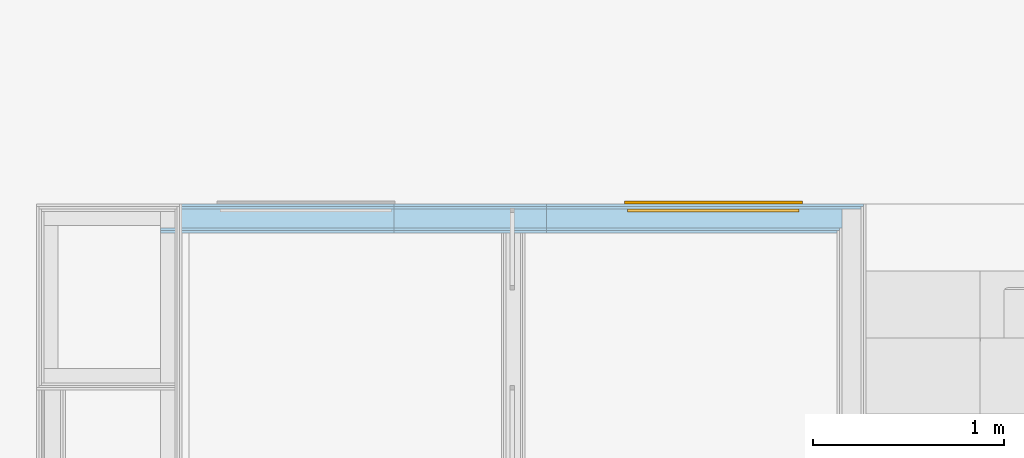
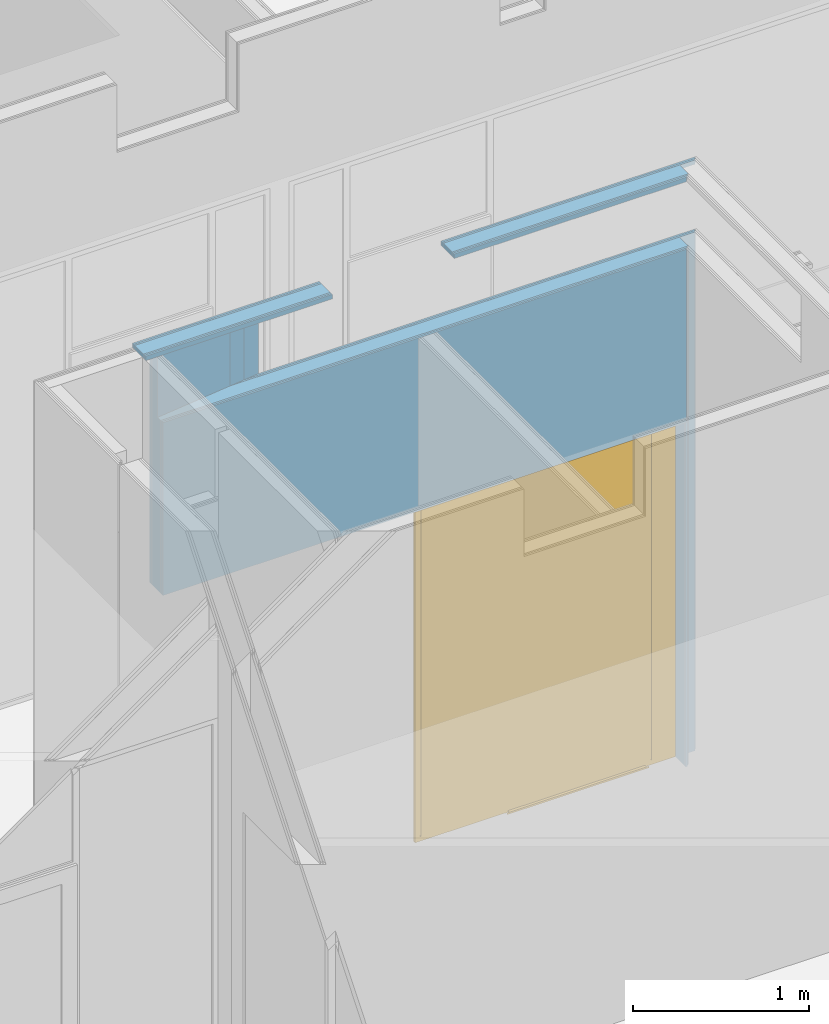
# One storey, part 46 of 109: 1 door, 2 openings, 1 element without a shape of its own, plus 5 elements that do not belong to this part.
"""IFC2X3 building model written with IfcOpenShell, lengths in millimetres."""

from ifc_helpers import new_model, entity, si_unit, converted_unit, derived_unit, money_unit, direction, frame, origin_with_axes, place, context, subcontext, project, spatial, open_shell, faceted_brep, surface_model, material, type_object, element, fill, aggregate, save


model = new_model("IFC2X3")

# Units and contexts
model_context = context("Model", 3, precision=0.01, world=origin_with_axes(), true_north=direction((0.0, 1.0)))
body_context = subcontext(model_context, "Body", "Model", "MODEL_VIEW")
ifc_project = project(units=[si_unit("LENGTHUNIT", "METRE", prefix="MILLI"), si_unit("AREAUNIT", "SQUARE_METRE"), si_unit("VOLUMEUNIT", "CUBIC_METRE"), converted_unit("PLANEANGLEUNIT", "DEGREE", entity("IfcPlaneAngleMeasure", 0.0174532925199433), si_unit("PLANEANGLEUNIT", "RADIAN"), dimensions=[0, 0, 0, 0, 0, 0, 0]), money_unit("EUR"), converted_unit("TIMEUNIT", "Year", entity("IfcTimeMeasure", 31557600.0), si_unit("TIMEUNIT", "SECOND"), dimensions=[0, 0, 1, 0, 0, 0, 0]), si_unit("MASSUNIT", "GRAM", prefix="KILO"), si_unit("THERMODYNAMICTEMPERATUREUNIT", "DEGREE_CELSIUS"), si_unit("LUMINOUSINTENSITYUNIT", "LUMEN"), si_unit("ENERGYUNIT", "JOULE", prefix="MEGA"), derived_unit("THERMALCONDUCTANCEUNIT", [(si_unit("POWERUNIT", "WATT"), 1), (si_unit("LENGTHUNIT", "METRE"), -1), (si_unit("THERMODYNAMICTEMPERATUREUNIT", "KELVIN"), -1)]), derived_unit("SPECIFICHEATCAPACITYUNIT", [(si_unit("ENERGYUNIT", "JOULE"), 1), (si_unit("MASSUNIT", "GRAM", prefix="KILO"), -1), (si_unit("THERMODYNAMICTEMPERATUREUNIT", "KELVIN"), -1)]), derived_unit("MASSDENSITYUNIT", [(si_unit("MASSUNIT", "GRAM", prefix="KILO"), 1), (si_unit("VOLUMEUNIT", "CUBIC_METRE"), -1)])], contexts=[model_context])

# Site, building, storey
site_placement = place(None, origin_with_axes())
site = spatial("IfcSite", under=ifc_project, at=site_placement, Name="<site naam>", CompositionType="ELEMENT")
building_placement = place(site_placement, origin_with_axes())
building = spatial("IfcBuilding", under=site, at=building_placement, Name="<Naam gebouw>", CompositionType="ELEMENT")
storey_placement = place(building_placement, origin_with_axes())
storey = spatial("IfcBuildingStorey", under=building, at=storey_placement, Name="00 Begane grond", CompositionType="ELEMENT", Elevation=0.0)

# Door
door_style = type_object("IfcDoorStyle", Name="D1 zl2 27", ConstructionType="NOTDEFINED", OperationType="USERDEFINED", ParameterTakesPrecedence=False, Sizeable=False)
wall_placement = place(storey_placement, frame((4000.000000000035, 16624.99999999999, 0.0), z_axis=(0.0, 0.0, 1.0), x_axis=(-1.0, 0.0, 0.0)))
opening_2_placement = place(wall_placement, frame((928.3527659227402, 0.0, 0.0), z_axis=(0.0, 0.0, 1.0), x_axis=(1.0, 0.0, 0.0)))
door_placement = place(opening_2_placement, frame((853.3527659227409, 0.0, 0.0), z_axis=(0.0, 0.0, 1.0), x_axis=(-1.0, 0.0, 0.0)))
door = element("IfcDoor", 1, at=door_placement, inside=storey, type_object=door_style, Name="22_BI-F-27 sp_305", ObjectType="DOOR", OverallHeight=2400.0, OverallWidth=1706.71, context=body_context, shape_type="SurfaceModel", body=[
    faceted_brep([(589.7055318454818, 35.00000000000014, 0.0), (589.7055318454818, 35.00000000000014, 12.0), (606.7055318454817, 35.00000000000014, 12.0), (606.7055318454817, 35.00000000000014, 0.0), (1523.705531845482, 35.00000000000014, 0.0), (1523.705531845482, 35.00000000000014, 12.0), (1506.705531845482, 35.00000000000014, 12.0), (1506.705531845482, 54.99999999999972, 12.0), (606.7055318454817, 54.99999999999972, 12.0), (606.7055318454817, 54.99999999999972, 0.0), (1506.705531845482, 54.99999999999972, 0.0), (1506.705531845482, 35.00000000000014, 0.0)], [[[0, 1, 2, 3]], [[4, 5, 1, 0]], [[1, 5, 6, 7, 8, 2]], [[3, 2, 8, 9]], [[0, 3, 9, 10, 11, 4]], [[11, 6, 5, 4]], [[10, 7, 6, 11]], [[9, 8, 7, 10]]]),
    faceted_brep([(0.0, 74.99999999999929, 0.0), (32.99999999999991, 74.99999999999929, 0.0), (32.99999999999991, 54.99999999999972, 0.0), (0.0, 54.99999999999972, 0.0), (0.0, 74.99999999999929, 2367.0), (32.99999999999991, 74.99999999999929, 2367.0), (32.99999999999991, 74.99999999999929, 33.0), (32.99999999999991, 54.99999999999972, 33.0), (32.99999999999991, 54.99999999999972, 2367.0), (0.0, 54.99999999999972, 2367.0)], [[[0, 1, 2, 3]], [[0, 4, 5, 6, 1]], [[1, 6, 7, 2]], [[3, 2, 7, 8, 9]], [[4, 0, 3, 9]], [[5, 4, 9, 8]], [[6, 5, 8, 7]]]),
    faceted_brep([(589.7055318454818, 54.99999999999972, 0.0), (589.7055318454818, 54.99999999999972, 2367.0), (564.7055318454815, 54.99999999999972, 2367.0), (564.7055318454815, 54.99999999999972, 32.99999999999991), (564.7055318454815, 54.99999999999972, 0.0), (589.7055318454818, 74.99999999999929, 2367.0), (589.7055318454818, 74.99999999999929, 0.0), (564.7055318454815, 74.99999999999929, 2367.0), (564.7055318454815, 74.99999999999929, 32.99999999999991), (564.7055318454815, 74.99999999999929, 0.0)], [[[0, 1, 2, 3, 4]], [[5, 1, 0, 6]], [[1, 5, 7, 2]], [[8, 3, 2, 7]], [[9, 4, 3, 8]], [[6, 0, 4, 9]], [[5, 6, 9, 8, 7]]]),
    faceted_brep([(32.99999999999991, 74.99999999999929, 33.0), (32.99999999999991, 74.99999999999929, 0.0), (32.99999999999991, 54.99999999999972, 0.0), (32.99999999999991, 54.99999999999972, 33.0), (564.7055318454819, 74.99999999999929, 33.0), (564.7055318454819, 74.99999999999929, 0.0), (564.7055318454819, 54.99999999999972, 0.0), (564.7055318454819, 54.99999999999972, 33.0)], [[[0, 1, 2, 3]], [[0, 4, 5, 1]], [[1, 5, 6, 2]], [[3, 2, 6, 7]], [[4, 0, 3, 7]], [[5, 4, 7, 6]]]),
    faceted_brep([(1706.705531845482, 74.99999999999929, 0.0), (1706.705531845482, 74.99999999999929, 2367.0), (1706.705531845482, 54.99999999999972, 2367.0), (1706.705531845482, 54.99999999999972, 0.0), (1673.705531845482, 74.99999999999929, 0.0), (1673.705531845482, 74.99999999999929, 33.0), (1673.705531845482, 74.99999999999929, 2367.0), (1673.705531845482, 54.99999999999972, 2367.0), (1673.705531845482, 54.99999999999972, 33.0), (1673.705531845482, 54.99999999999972, 0.0)], [[[0, 1, 2, 3]], [[0, 4, 5, 6, 1]], [[1, 6, 7, 2]], [[3, 2, 7, 8, 9]], [[4, 0, 3, 9]], [[5, 4, 9, 8]], [[6, 5, 8, 7]]]),
    faceted_brep([(1523.705531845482, 74.99999999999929, 2367.0), (1523.705531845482, 54.99999999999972, 2367.0), (1548.705531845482, 54.99999999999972, 2367.0), (1548.705531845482, 74.99999999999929, 2367.0), (1523.705531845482, 54.99999999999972, 0.0), (1523.705531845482, 74.99999999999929, 0.0), (1548.705531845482, 54.99999999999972, 0.0), (1548.705531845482, 54.99999999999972, 32.99999999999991), (1548.705531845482, 74.99999999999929, 32.99999999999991), (1548.705531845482, 74.99999999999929, 0.0)], [[[0, 1, 2, 3]], [[4, 1, 0, 5]], [[1, 4, 6, 7, 2]], [[3, 2, 7, 8]], [[5, 0, 3, 8, 9]], [[4, 5, 9, 6]], [[8, 7, 6, 9]]]),
    faceted_brep([(1548.705531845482, 74.99999999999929, 33.0), (1548.705531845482, 74.99999999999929, 0.0), (1548.705531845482, 54.99999999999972, 0.0), (1548.705531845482, 54.99999999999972, 33.0), (1673.705531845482, 74.99999999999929, 33.0), (1673.705531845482, 74.99999999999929, 0.0), (1673.705531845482, 54.99999999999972, 0.0), (1673.705531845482, 54.99999999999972, 33.0)], [[[0, 1, 2, 3]], [[0, 4, 5, 1]], [[1, 5, 6, 2]], [[3, 2, 6, 7]], [[4, 0, 3, 7]], [[5, 4, 7, 6]]]),
    faceted_brep([(589.7055318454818, 54.99999999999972, 2367.0), (589.7055318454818, 54.99999999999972, 2384.0), (1523.705531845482, 54.99999999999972, 2384.0), (1523.705531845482, 54.99999999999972, 2367.0), (1548.705531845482, 54.99999999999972, 2367.0), (1673.705531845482, 54.99999999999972, 2367.0), (1706.705531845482, 54.99999999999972, 2367.0), (1706.705531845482, 54.99999999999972, 2400.0), (0.0, 54.99999999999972, 2400.0), (0.0, 54.99999999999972, 2367.0), (32.99999999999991, 54.99999999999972, 2367.0), (564.7055318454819, 54.99999999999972, 2367.0), (589.7055318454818, 74.99999999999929, 2367.0), (589.7055318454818, 74.99999999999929, 2384.0), (1523.705531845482, 74.99999999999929, 2384.0), (1523.705531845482, 74.99999999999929, 2367.0), (1548.705531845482, 74.99999999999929, 2367.0), (1673.705531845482, 74.99999999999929, 2367.0), (1706.705531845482, 74.99999999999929, 2367.0), (1706.705531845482, 74.99999999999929, 2400.0), (0.0, 74.99999999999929, 2400.0), (0.0, 74.99999999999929, 2367.0), (32.99999999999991, 74.99999999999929, 2367.0), (564.7055318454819, 74.99999999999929, 2367.0)], [[[0, 1, 2, 3, 4, 5, 6, 7, 8, 9, 10, 11]], [[1, 0, 12, 13]], [[2, 1, 13, 14]], [[3, 2, 14, 15]], [[3, 15, 16, 17, 5, 4]], [[18, 6, 5, 17]], [[19, 7, 6, 18]], [[20, 8, 7, 19]], [[21, 9, 8, 20]], [[22, 10, 9, 21]], [[23, 11, 10, 22]], [[12, 0, 11, 23]], [[13, 12, 23, 22, 21, 20, 19, 18, 17, 16, 15, 14]]]),
    faceted_brep([(1523.705531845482, 92.99999999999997, 0.0), (1523.705531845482, 53.00000000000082, 0.0), (589.7055318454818, 53.00000000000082, 0.0), (589.7055318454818, 92.99999999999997, 0.0), (1523.705531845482, 92.99999999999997, 2384.0), (1523.705531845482, 52.99999999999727, 2384.0), (589.7055318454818, 53.00000000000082, 2384.0), (589.7055318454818, 92.99999999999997, 2384.0)], [[[0, 1, 2, 3]], [[4, 5, 1, 0]], [[1, 5, 6, 2]], [[3, 2, 6, 7]], [[0, 3, 7, 4]], [[7, 6, 5, 4]]]),
    surface_model("IfcShellBasedSurfaceModel", [(32.99999999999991, 48.99999999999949, 33.0), (564.7055318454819, 48.99999999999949, 33.0), (564.7055318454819, 48.99999999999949, 2367.0), (32.99999999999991, 48.99999999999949, 2367.0)], [open_shell([[[0, 1, 2, 3]]])]),
    surface_model("IfcShellBasedSurfaceModel", [(32.99999999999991, 60.99999999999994, 33.0), (32.99999999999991, 60.99999999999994, 2367.0), (564.7055318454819, 60.99999999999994, 2367.0), (564.7055318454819, 60.99999999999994, 33.0)], [open_shell([[[0, 1, 2, 3]]])]),
    surface_model("IfcShellBasedSurfaceModel", [(1548.705531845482, 48.99999999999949, 33.0), (1673.705531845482, 48.99999999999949, 33.0), (1673.705531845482, 48.99999999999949, 2367.0), (1548.705531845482, 48.99999999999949, 2367.0)], [open_shell([[[0, 1, 2, 3]]])]),
    surface_model("IfcShellBasedSurfaceModel", [(1548.705531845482, 60.99999999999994, 33.0), (1548.705531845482, 60.99999999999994, 2367.0), (1673.705531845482, 60.99999999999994, 2367.0), (1673.705531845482, 60.99999999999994, 33.0)], [open_shell([[[0, 1, 2, 3]]])]),
])

# Wall, openings
wall_type = type_object("IfcWallType", Name="MS-01 GF 150 ECO DGS/2.100.2.A 150", PredefinedType="NOTDEFINED")
wall = element("IfcWall", 2, at=wall_placement, inside=storey, type_object=wall_type, Name="22_Binnenwand_MS-01")
opening_1_placement = place(wall_placement, frame((2638.705531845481, 0.0, 0.0), z_axis=(0.0, 0.0, 1.0), x_axis=(1.0, 0.0, 0.0)))
element("IfcOpeningElement", 3, at=opening_1_placement, cuts=wall, Name="22_BI-F-27_305", context=body_context, shape_type="Brep", body=[
    faceted_brep([(873.75, 76.00000000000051, 2400.0), (873.75, 76.00000000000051, 0.0), (-873.7500000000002, 76.00000000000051, 0.0), (-873.7500000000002, 76.00000000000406, 2400.0), (873.75, -76.00000000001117, 2400.0), (873.75, -76.00000000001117, 0.0), (-873.7500000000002, -76.00000000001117, 0.0), (-873.7500000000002, -76.00000000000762, 2400.0)], [[[0, 1, 2, 3]], [[4, 5, 1, 0]], [[5, 6, 2, 1]], [[6, 7, 3, 2]], [[7, 4, 0, 3]], [[6, 5, 4, 7]]]),
])
opening_2 = element("IfcOpeningElement", 4, at=opening_2_placement, cuts=wall, Name="22_BI-F-27 sp_305", context=body_context, shape_type="Brep", body=[
    faceted_brep([(853.3527659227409, 76.00000000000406, 2400.0), (853.3527659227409, 76.00000000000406, 0.0), (-853.3527659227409, 76.00000000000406, 0.0), (-853.3527659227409, 76.00000000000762, 2400.0), (853.3527659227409, -76.00000000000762, 2400.0), (853.3527659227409, -76.00000000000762, 0.0), (-853.3527659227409, -76.00000000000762, 0.0), (-853.3527659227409, -76.00000000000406, 2400.0)], [[[0, 1, 2, 3]], [[4, 5, 1, 0]], [[5, 6, 2, 1]], [[6, 7, 3, 2]], [[7, 4, 0, 3]], [[6, 5, 4, 7]]]),
])

fill(opening_2, door)

# Building element part
ifc_material_1 = material(Name="gipsplaat")
building_element_part_1_placement = place(wall_placement, origin_with_axes())
building_element_part_1 = element("IfcBuildingElementPart", 5, at=building_element_part_1_placement, material=ifc_material_1, Name="gipsplaat", context=body_context, shape_type="Brep", body=[
    faceted_brep([(3512.455531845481, 50.00000000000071, 0.0), (3512.455531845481, 50.00000000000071, 3600.0), (2399.999999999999, 50.00000000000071, 3600.0), (1600.000000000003, 50.00000000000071, 3600.0), (62.49999999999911, 50.00000000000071, 3600.0), (62.49999999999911, 50.00000000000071, 0.0), (74.99999999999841, 50.00000000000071, 0.0), (74.99999999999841, 50.00000000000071, 3.000000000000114), (1712.499996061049, 50.00000000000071, 3.000000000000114), (1712.499996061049, 50.00000000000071, 0.0), (1837.500018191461, 50.00000000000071, 0.0), (1837.500018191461, 50.00000000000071, 3.000000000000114), (3474.955531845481, 50.00000000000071, 3.000000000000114), (3474.955531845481, 50.00000000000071, 0.0), (3512.455531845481, 62.5, 0.0), (3512.455531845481, 62.5, 3600.0), (2399.999999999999, 62.5, 3600.0), (1600.000000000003, 62.5, 3600.0), (62.49999999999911, 62.5, 3600.0), (62.49999999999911, 62.5, 0.0), (74.99999999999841, 62.5, 0.0), (74.99999999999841, 62.5, 3.000000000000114), (1712.499996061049, 62.5, 3.000000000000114), (1712.499996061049, 62.5, 0.0), (1837.500018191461, 62.5, 0.0), (1837.500018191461, 62.5, 3.000000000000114), (3474.955531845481, 62.5, 3.000000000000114), (3474.955531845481, 62.5, 0.0)], [[[0, 1, 2, 3, 4, 5, 6, 7, 8, 9, 10, 11, 12, 13]], [[14, 15, 1, 0]], [[15, 16, 2, 1]], [[3, 2, 16, 17]], [[3, 17, 18, 4]], [[19, 5, 4, 18]], [[20, 6, 5, 19]], [[7, 6, 20, 21]], [[8, 7, 21, 22]], [[9, 8, 22, 23]], [[9, 23, 24, 10]], [[11, 10, 24, 25]], [[12, 11, 25, 26]], [[13, 12, 26, 27]], [[13, 27, 14, 0]], [[17, 16, 15, 14, 27, 26, 25, 24, 23, 22, 21, 20, 19, 18]]]),
    faceted_brep([(2400.000000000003, 62.5, 4100.000044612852), (2399.999999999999, 62.5, 4070.0), (2399.999999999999, 50.00000000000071, 4070.0), (2400.000000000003, 50.00000000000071, 4100.000044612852), (3624.955531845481, 62.5, 4070.0), (3512.455531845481, 62.5, 4070.0), (3624.955531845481, 62.5, 4100.000044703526), (3512.455531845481, 50.00000000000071, 4070.0), (3624.955531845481, 50.00000000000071, 4070.0), (3624.955531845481, 50.00000000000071, 4100.000044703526)], [[[0, 1, 2, 3]], [[4, 5, 1, 0, 6]], [[5, 7, 2, 1]], [[3, 2, 7, 8, 9]], [[3, 9, 6, 0]], [[8, 7, 5, 4]], [[9, 8, 4, 6]]]),
    faceted_brep([(62.49999999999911, 62.5, 4100.000044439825), (62.49999999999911, 62.5, 4070.0), (62.49999999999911, 50.00000000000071, 4070.0), (62.49999999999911, 50.00000000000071, 4100.000044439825), (1600.000000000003, 62.5, 4100.000044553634), (1600.000000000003, 62.5, 4070.0), (1600.000000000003, 50.00000000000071, 4070.0), (1600.000000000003, 50.00000000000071, 4100.000044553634)], [[[0, 1, 2, 3]], [[4, 5, 1, 0]], [[5, 6, 2, 1]], [[3, 2, 6, 7]], [[0, 3, 7, 4]], [[7, 6, 5, 4]]]),
])

building_element_part_2_placement = place(wall_placement, origin_with_axes())
building_element_part_2 = element("IfcBuildingElementPart", 6, at=building_element_part_2_placement, material=ifc_material_1, Name="gipsplaat", context=body_context, shape_type="Brep", body=[
    faceted_brep([(3474.955531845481, 62.5, 0.0), (3512.455531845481, 62.5, 0.0), (3512.455531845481, 62.5, 3600.0), (2399.999999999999, 62.5, 3600.0), (1600.000000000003, 62.5, 3600.0), (74.99999999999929, 62.5, 3600.0), (74.99999999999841, 62.5, 3.000000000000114), (1712.49999606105, 62.5, 3.000000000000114), (1712.49999606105, 62.5, 0.0), (1837.500018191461, 62.5, 0.0), (1837.500018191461, 62.5, 3.000000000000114), (3474.955531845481, 62.5, 3.000000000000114), (3474.955531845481, 74.99999999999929, 0.0), (3512.455531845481, 74.99999999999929, 0.0), (3512.455531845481, 74.99999999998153, 3600.0), (2399.999999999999, 74.99999999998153, 3600.0), (1600.000000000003, 74.99999999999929, 3600.0), (74.99999999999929, 74.99999999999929, 3600.0), (74.99999999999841, 74.99999999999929, 3.000000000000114), (1712.49999606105, 74.99999999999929, 3.000000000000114), (1712.49999606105, 74.99999999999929, 0.0), (1837.500018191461, 74.99999999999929, 0.0), (1837.500018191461, 74.99999999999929, 3.000000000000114), (3474.955531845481, 74.99999999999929, 3.000000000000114)], [[[0, 1, 2, 3, 4, 5, 6, 7, 8, 9, 10, 11]], [[1, 0, 12, 13]], [[1, 13, 14, 2]], [[2, 14, 15, 3]], [[16, 4, 3, 15]], [[5, 4, 16, 17]], [[17, 18, 6, 5]], [[19, 7, 6, 18]], [[20, 8, 7, 19]], [[9, 8, 20, 21]], [[22, 10, 9, 21]], [[23, 11, 10, 22]], [[12, 0, 11, 23]], [[17, 16, 15, 14, 13, 12, 23, 22, 21, 20, 19, 18]]]),
    faceted_brep([(2400.000000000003, 62.5, 4100.000044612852), (2400.000000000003, 74.99999999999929, 4100.000044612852), (2399.999999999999, 74.99999999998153, 4070.0), (2399.999999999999, 62.5, 4070.0), (3624.955531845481, 62.5, 4100.000044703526), (3624.955531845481, 74.99999999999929, 4100.000044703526), (3624.955531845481, 74.99999999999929, 4070.0), (3512.455531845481, 74.99999999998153, 4070.0), (3512.455531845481, 62.5, 4070.0), (3624.955531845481, 62.5, 4070.0)], [[[0, 1, 2, 3]], [[1, 0, 4, 5]], [[5, 6, 7, 2, 1]], [[2, 7, 8, 3]], [[4, 0, 3, 8, 9]], [[5, 4, 9, 6]], [[6, 9, 8, 7]]]),
    faceted_brep([(74.99999999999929, 74.99999999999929, 4100.00004444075), (74.99999999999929, 74.99999999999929, 4070.0), (74.99999999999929, 62.5, 4070.0), (74.99999999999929, 62.5, 4100.00004444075), (1600.000000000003, 74.99999999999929, 4100.000044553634), (1600.000000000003, 74.99999999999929, 4070.0), (1600.000000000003, 62.5, 4070.0), (1600.000000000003, 62.5, 4100.000044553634)], [[[0, 1, 2, 3]], [[4, 5, 1, 0]], [[5, 6, 2, 1]], [[3, 2, 6, 7]], [[0, 3, 7, 4]], [[7, 6, 5, 4]]]),
])

ifc_material_2 = material(Name="isolatie_steenwol LSW")
building_element_part_3_placement = place(wall_placement, origin_with_axes())
building_element_part_3 = element("IfcBuildingElementPart", 7, at=building_element_part_3_placement, material=ifc_material_2, Name="isolatie_steenwol LSW", context=body_context, shape_type="Brep", body=[
    faceted_brep([(2400.000000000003, 50.00000000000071, 4100.000044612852), (2399.999999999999, 50.00000000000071, 4070.0), (2399.999999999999, -50.00000000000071, 4070.0), (2400.000000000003, -50.00000000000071, 4100.000044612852), (3624.955531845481, 50.00000000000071, 4070.0), (3512.455531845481, 50.00000000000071, 4070.0), (3624.955531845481, 50.00000000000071, 4100.000044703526), (3512.455531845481, 14.05694148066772, 4070.0), (3000.000000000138, -50.00000000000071, 4070.0), (3000.000000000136, -50.00000000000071, 3600.0), (2399.999999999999, -50.00000000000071, 3600.0), (1600.000000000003, -50.00000000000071, 3600.0), (49.99999999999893, -50.00000000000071, 3600.0), (49.99999999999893, -50.00000000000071, 0.0), (74.99999999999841, -50.00000000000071, 0.0), (74.99999999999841, -50.00000000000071, 3.000000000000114), (1712.499996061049, -50.00000000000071, 3.000000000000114), (1712.499996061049, -50.00000000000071, 0.0), (1837.500018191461, -50.00000000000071, 0.0), (1837.500018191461, -50.00000000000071, 3.000000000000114), (3474.955531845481, -50.00000000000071, 3.000000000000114), (3474.955531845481, -50.00000000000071, 0.0), (3512.455531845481, -50.00000000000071, 0.0), (3512.455531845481, -50.00000000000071, 4070.0), (3624.955531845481, -50.00000000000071, 4070.0), (3624.955531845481, -50.00000000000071, 4100.000044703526), (3512.455531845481, 14.05694148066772, 3600.0), (3512.455531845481, 50.00000000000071, 3600.0), (2399.999999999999, 50.00000000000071, 3600.0), (1600.000000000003, 50.00000000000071, 3600.0), (49.99999999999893, 50.00000000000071, 3600.0), (49.99999999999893, 50.00000000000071, 0.0), (74.99999999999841, 50.00000000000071, 0.0), (74.99999999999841, 50.00000000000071, 3.000000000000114), (1712.499996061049, 50.00000000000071, 3.000000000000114), (1712.499996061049, 50.00000000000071, 0.0), (1837.500018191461, 50.00000000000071, 0.0), (1837.500018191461, 50.00000000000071, 3.000000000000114), (3474.955531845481, 50.00000000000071, 3.000000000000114), (3474.955531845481, 50.00000000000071, 0.0), (3512.455531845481, 50.00000000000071, 0.0)], [[[0, 1, 2, 3]], [[4, 5, 1, 0, 6]], [[7, 8, 2, 1, 5]], [[8, 9, 10, 11, 12, 13, 14, 15, 16, 17, 18, 19, 20, 21, 22, 23, 24, 25, 3, 2]], [[3, 25, 6, 0]], [[23, 7, 5, 4, 24]], [[25, 24, 4, 6]], [[26, 9, 8, 7]], [[27, 28, 10, 9, 26]], [[11, 10, 28, 29]], [[11, 29, 30, 12]], [[31, 13, 12, 30]], [[32, 14, 13, 31]], [[15, 14, 32, 33]], [[16, 15, 33, 34]], [[17, 16, 34, 35]], [[17, 35, 36, 18]], [[19, 18, 36, 37]], [[20, 19, 37, 38]], [[21, 20, 38, 39]], [[21, 39, 40, 22]], [[27, 26, 7, 23, 22, 40]], [[29, 28, 27, 40, 39, 38, 37, 36, 35, 34, 33, 32, 31, 30]]]),
    faceted_brep([(49.99999999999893, 50.00000000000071, 4100.0000444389), (49.99999999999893, 50.00000000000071, 4070.0), (49.99999999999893, -50.00000000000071, 4070.0), (49.99999999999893, -50.00000000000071, 4100.0000444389), (1600.000000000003, 50.00000000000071, 4100.000044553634), (1600.000000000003, 50.00000000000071, 4070.0), (1600.000000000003, -50.00000000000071, 4070.0), (1600.000000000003, -50.00000000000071, 4100.000044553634)], [[[0, 1, 2, 3]], [[4, 5, 1, 0]], [[5, 6, 2, 1]], [[3, 2, 6, 7]], [[0, 3, 7, 4]], [[7, 6, 5, 4]]]),
])

building_element_part_4_placement = place(wall_placement, origin_with_axes())
building_element_part_4 = element("IfcBuildingElementPart", 8, at=building_element_part_4_placement, material=ifc_material_1, Name="gipsplaat", context=body_context, shape_type="Brep", body=[
    faceted_brep([(2400.000000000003, -62.5, 4100.000044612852), (2399.999999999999, -62.5, 4070.0), (2399.999999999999, -75.00000121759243, 4070.0), (2400.000000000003, -74.99999999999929, 4100.000044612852), (2900.000000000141, -62.5, 3600.0), (2900.000000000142, -62.5, 4070.0), (3624.955531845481, -62.5, 4100.000044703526), (3624.955531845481, -62.5, 4070.0), (3512.455531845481, -62.5, 4070.0), (3512.455531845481, -62.5, 0.0), (3474.955531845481, -62.5, 0.0), (3474.955531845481, -62.5, 3.000000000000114), (1837.500018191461, -62.5, 3.000000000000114), (1837.500018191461, -62.5, 0.0), (1712.499996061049, -62.5, 0.0), (1712.499996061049, -62.5, 3.000000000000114), (74.99999999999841, -62.5, 3.000000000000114), (74.99999999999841, -62.5, 0.0), (-62.50000000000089, -62.5, 0.0), (-62.50000000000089, -62.5, 3600.0), (1600.000000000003, -62.5, 3600.0), (2399.999999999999, -62.5, 3600.0), (2799.999837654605, -75.0000202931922, 4070.0), (2799.999837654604, -75.0000202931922, 3600.0), (2399.999999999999, -75.0000202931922, 3600.0), (1600.000000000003, -75.0000202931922, 3600.0), (-62.50000000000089, -74.99999999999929, 3600.0), (-62.50000000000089, -74.99999999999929, 0.0), (74.99999999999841, -75.0000202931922, 0.0), (74.99999999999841, -75.0000202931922, 3.000000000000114), (1712.499996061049, -75.0000202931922, 3.000000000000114), (1712.499996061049, -75.0000202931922, 0.0), (1837.500018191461, -75.0000202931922, 0.0), (1837.500018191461, -75.0000202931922, 3.000000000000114), (3474.955531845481, -75.0000202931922, 3.000000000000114), (3474.955531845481, -75.0000202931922, 0.0), (3512.455531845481, -74.99999394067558, 0.0), (3512.455531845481, -74.99999394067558, 4070.0), (3624.955531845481, -74.99997576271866, 4070.0), (3624.955531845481, -74.99999999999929, 4100.000044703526)], [[[0, 1, 2, 3]], [[4, 5, 1, 0, 6, 7, 8, 9, 10, 11, 12, 13, 14, 15, 16, 17, 18, 19, 20, 21]], [[5, 22, 2, 1]], [[22, 23, 24, 25, 26, 27, 28, 29, 30, 31, 32, 33, 34, 35, 36, 37, 38, 39, 3, 2]], [[3, 39, 6, 0]], [[4, 23, 22, 5]], [[39, 38, 7, 6]], [[38, 37, 8, 7]], [[8, 37, 36, 9]], [[35, 10, 9, 36]], [[35, 34, 11, 10]], [[34, 33, 12, 11]], [[33, 32, 13, 12]], [[31, 14, 13, 32]], [[31, 30, 15, 14]], [[30, 29, 16, 15]], [[29, 28, 17, 16]], [[17, 28, 27, 18]], [[18, 27, 26, 19]], [[25, 20, 19, 26]], [[25, 24, 21, 20]], [[4, 21, 24, 23]]]),
    faceted_brep([(-62.50000000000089, -62.5, 4100.000044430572), (-62.50000000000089, -62.5, 4070.0), (-62.50000000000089, -74.99999999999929, 4070.0), (-62.50000000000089, -74.99999999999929, 4100.000044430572), (1600.000000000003, -62.5, 4100.000044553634), (1600.000000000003, -62.5, 4070.0), (1600.000000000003, -75.00000121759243, 4070.0), (1600.000000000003, -74.99999999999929, 4100.000044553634)], [[[0, 1, 2, 3]], [[4, 5, 1, 0]], [[5, 6, 2, 1]], [[3, 2, 6, 7]], [[0, 3, 7, 4]], [[7, 6, 5, 4]]]),
])

building_element_part_5_placement = place(wall_placement, origin_with_axes())
building_element_part_5 = element("IfcBuildingElementPart", 9, at=building_element_part_5_placement, material=ifc_material_1, Name="gipsplaat", context=body_context, shape_type="Brep", body=[
    faceted_brep([(2400.000000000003, -50.00000000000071, 4100.000044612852), (2399.999999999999, -50.00000000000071, 4070.0), (2399.999999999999, -62.5, 4070.0), (2400.000000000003, -62.5, 4100.000044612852), (3000.000000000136, -50.00000000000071, 3600.0), (3000.000000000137, -50.00000000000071, 4070.0), (3624.955531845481, -50.00000000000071, 4100.000044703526), (3624.955531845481, -50.00000000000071, 4070.0), (3512.455531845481, -50.00000000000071, 4070.0), (3512.455531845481, -50.00000000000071, 0.0), (3474.955531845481, -50.00000000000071, 0.0), (3474.955531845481, -50.00000000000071, 3.000000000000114), (1837.500018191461, -50.00000000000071, 3.000000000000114), (1837.500018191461, -50.00000000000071, 0.0), (1712.499996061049, -50.00000000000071, 0.0), (1712.499996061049, -50.00000000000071, 3.000000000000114), (74.99999999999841, -50.00000000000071, 3.000000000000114), (74.99999999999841, -50.00000000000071, 0.0), (-50.00000000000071, -50.00000000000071, 0.0), (-50.00000000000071, -50.00000000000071, 3600.0), (1600.000000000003, -50.00000000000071, 3600.0), (2399.999999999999, -50.00000000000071, 3600.0), (2900.000000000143, -62.5, 4070.0), (2900.000000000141, -62.5, 3600.0), (2399.999999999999, -62.5, 3600.0), (1600.000000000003, -62.5, 3600.0), (-50.00000000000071, -62.5, 3600.0), (-50.00000000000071, -62.5, 0.0), (74.99999999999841, -62.5, 0.0), (74.99999999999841, -62.5, 3.000000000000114), (1712.499996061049, -62.5, 3.000000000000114), (1712.499996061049, -62.5, 0.0), (1837.500018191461, -62.5, 0.0), (1837.500018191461, -62.5, 3.000000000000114), (3474.955531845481, -62.5, 3.000000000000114), (3474.955531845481, -62.5, 0.0), (3512.455531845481, -62.5, 0.0), (3512.455531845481, -62.5, 4070.0), (3624.955531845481, -62.5, 4070.0), (3624.955531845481, -62.5, 4100.000044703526)], [[[0, 1, 2, 3]], [[4, 5, 1, 0, 6, 7, 8, 9, 10, 11, 12, 13, 14, 15, 16, 17, 18, 19, 20, 21]], [[5, 22, 2, 1]], [[22, 23, 24, 25, 26, 27, 28, 29, 30, 31, 32, 33, 34, 35, 36, 37, 38, 39, 3, 2]], [[3, 39, 6, 0]], [[4, 23, 22, 5]], [[39, 38, 7, 6]], [[38, 37, 8, 7]], [[8, 37, 36, 9]], [[35, 10, 9, 36]], [[35, 34, 11, 10]], [[34, 33, 12, 11]], [[33, 32, 13, 12]], [[31, 14, 13, 32]], [[31, 30, 15, 14]], [[30, 29, 16, 15]], [[29, 28, 17, 16]], [[17, 28, 27, 18]], [[18, 27, 26, 19]], [[25, 20, 19, 26]], [[25, 24, 21, 20]], [[4, 21, 24, 23]]]),
    faceted_brep([(-50.00000000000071, -50.00000000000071, 4100.000044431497), (-50.00000000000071, -50.00000000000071, 4070.0), (-50.00000000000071, -62.5, 4070.0), (-50.00000000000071, -62.5, 4100.000044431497), (1600.000000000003, -50.00000000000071, 4100.000044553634), (1600.000000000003, -50.00000000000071, 4070.0), (1600.000000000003, -62.5, 4070.0), (1600.000000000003, -62.5, 4100.000044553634)], [[[0, 1, 2, 3]], [[4, 5, 1, 0]], [[5, 6, 2, 1]], [[3, 2, 6, 7]], [[0, 3, 7, 4]], [[7, 6, 5, 4]]]),
])

aggregate(wall, [building_element_part_1, building_element_part_2, building_element_part_3, building_element_part_4, building_element_part_5])

save(model, "model.ifc")
